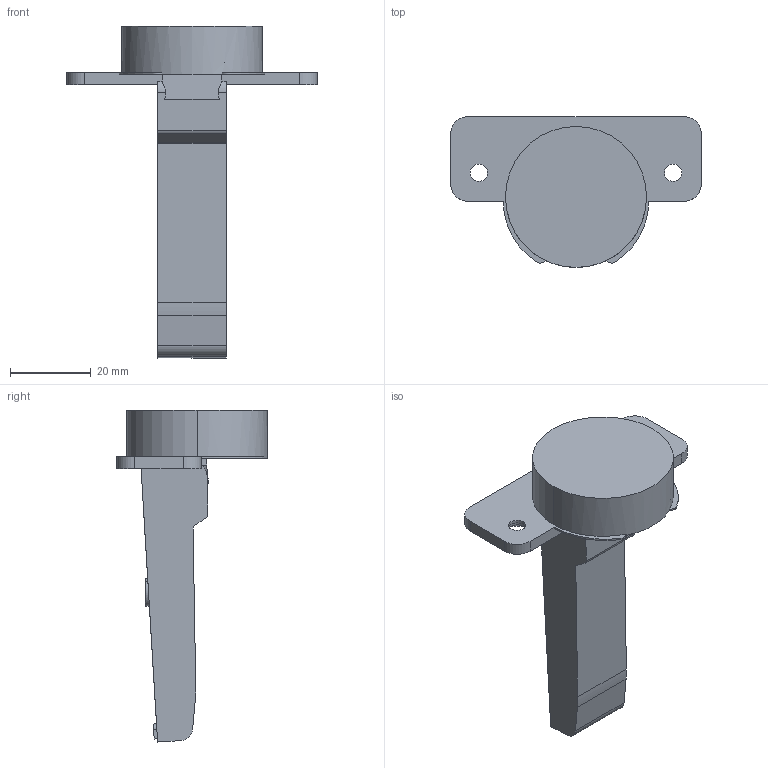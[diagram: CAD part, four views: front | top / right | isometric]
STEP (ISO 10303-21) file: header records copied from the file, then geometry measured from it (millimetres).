
FILE_DESCRIPTION (( 'STEP AP203' ), '1' );
FILE_NAME ('C82A276F-DTC 3D close.STEP', '2024-09-09T06:16:04', ( '微软用户' ), ( '微软中国' ), 'SwSTEP 2.0', 'SolidWorks 2021', '' );
FILE_SCHEMA (( 'CONFIG_CONTROL_DESIGN' ));
Length unit declared in the file: millimetre
Products named in the file (1): C82A276F-DTC 3D close
Bounding box: 61.96 x 37.28 x 82 mm (x, y, z)
Volume: 28305.5 mm3; surface area: 9083.9 mm2
Topology: 1 solids, 1 shells, 82 faces, 218 edges, 144 vertices
Faces by surface type: cylinder 33, plane 33, bspline 10, cone 4, torus 2
Entity records: 2918 total; most frequent: CARTESIAN_POINT 826, ORIENTED_EDGE 436, DIRECTION 404, EDGE_CURVE 218, VERTEX_POINT 144, AXIS2_PLACEMENT_3D 143, VECTOR 118, LINE 118
